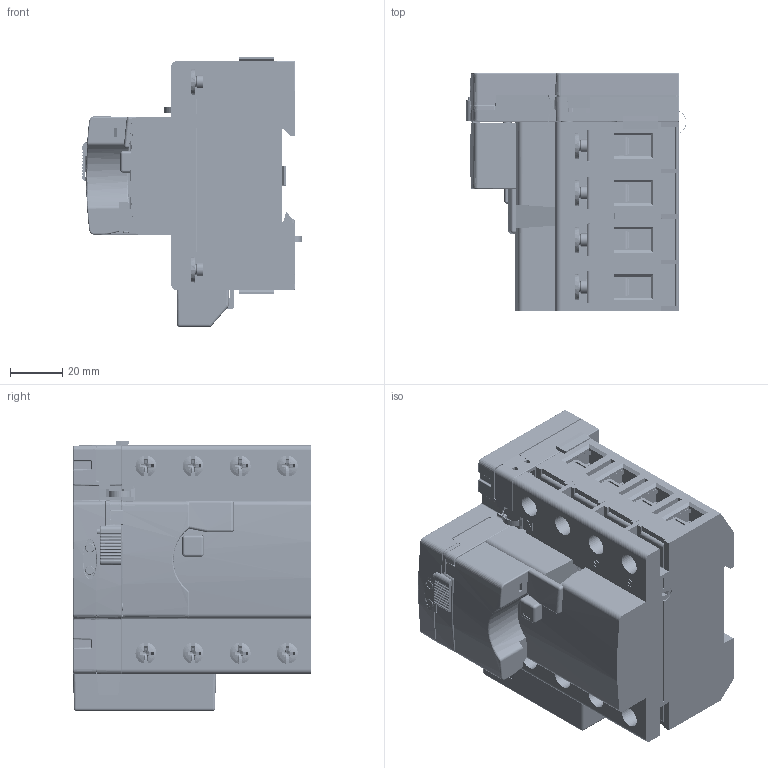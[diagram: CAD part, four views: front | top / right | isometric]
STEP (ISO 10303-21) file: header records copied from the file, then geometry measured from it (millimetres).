
FILE_DESCRIPTION((''),'2;1');
FILE_NAME('025543','2019-07-04T',('esors'),(''),'CREO PARAMETRIC BY PTC INC, 2015290','CREO PARAMETRIC BY PTC INC, 2015290','');
FILE_SCHEMA(('AUTOMOTIVE_DESIGN { 1 0 10303 214 1 1 1 1 }'));
Products named in the file (1): 025543
Bounding box: 84.36 x 90.8 x 103.15 mm (x, y, z)
Volume: 105544.8 mm3; surface area: 174628.6 mm2
Topology: 3 solids, 22 shells, 7264 faces, 19935 edges, 12607 vertices
Faces by surface type: plane 4160, cylinder 1578, cone 431, torus 400, bspline 397, sphere 298
Entity records: 315237 total; most frequent: CARTESIAN_POINT 72225, ORIENTED_EDGE 39494, DIRECTION 36071, PRESENTATION_STYLE_ASSIGNMENT 19831, STYLED_ITEM 19831, CURVE_STYLE 19810, EDGE_CURVE 19810, VECTOR 12781
